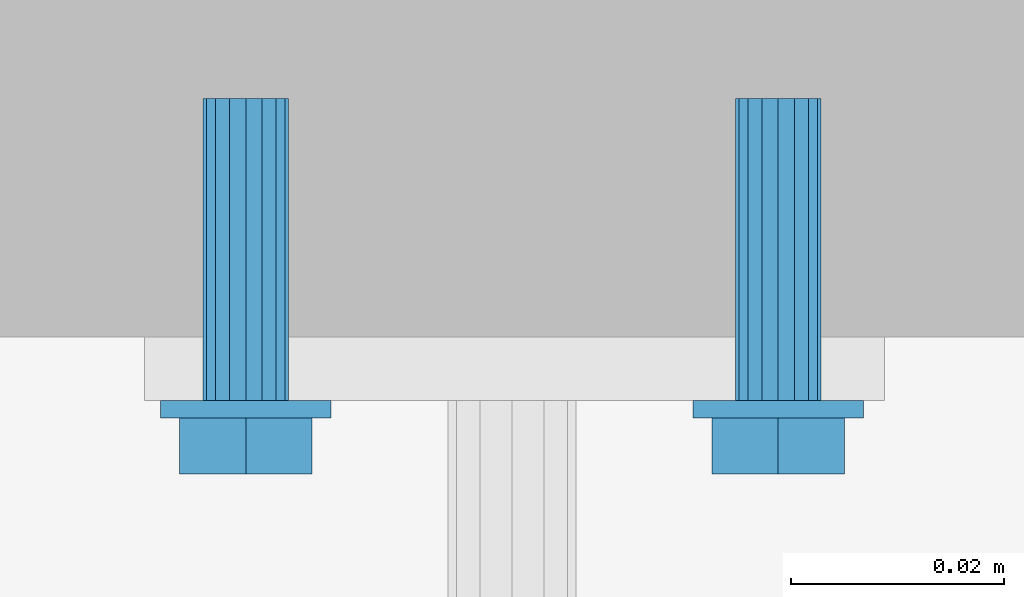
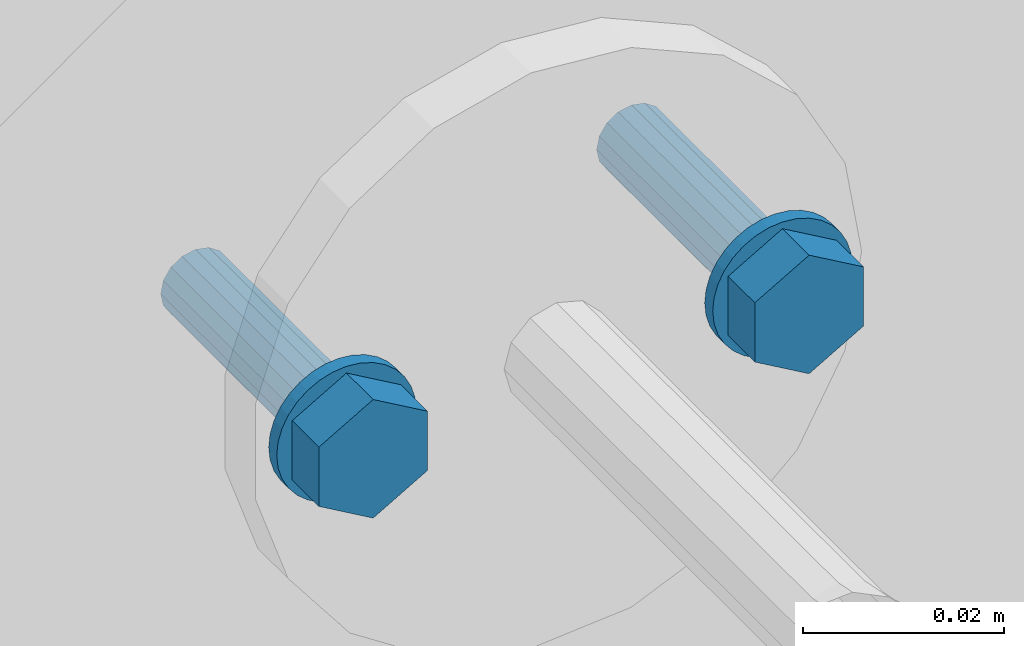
# One storey, part 247 of 410: 1 mechanical fastener.
"""IFC2X3 building model written with IfcOpenShell, lengths in millimetres."""

from ifc_helpers import new_model, entity, si_unit, converted_unit, origin_with_axes, place, context, project, spatial, faceted_brep, element, save


model = new_model("IFC2X3")

# Units and contexts
model_context = context("Model", 3, precision=1e-09, world=origin_with_axes())
ifc_project = project(units=[si_unit("LENGTHUNIT", "METRE", prefix="MILLI"), si_unit("AREAUNIT", "SQUARE_METRE"), si_unit("VOLUMEUNIT", "CUBIC_METRE"), converted_unit("PLANEANGLEUNIT", "DEGREE", entity("IfcPlaneAngleMeasure", 0.01745329), si_unit("PLANEANGLEUNIT", "RADIAN"), dimensions=[0, 0, 0, 0, 0, 0, 0])], contexts=[model_context])

# Site, building, storey
site_placement = place(None, origin_with_axes())
site = spatial("IfcSite", under=ifc_project, at=site_placement, Name="mKR Teilneubau & Sanierung BA1 - Ostfildern", CompositionType="ELEMENT")
building_placement = place(site_placement, origin_with_axes())
building = spatial("IfcBuilding", under=site, at=building_placement, Name="Struktur 1", CompositionType="ELEMENT")
storey_placement = place(building_placement, origin_with_axes())
storey = spatial("IfcBuildingStorey", under=building, at=storey_placement, Name="Default Storey", CompositionType="ELEMENT", Elevation=0.0)

# Mechanical fastener
mechanical_fastener_placement = place(None, origin_with_axes())
element("IfcMechanicalFastener", 1, at=mechanical_fastener_placement, inside=storey, ObjectType="-", NominalDiameter=8.0, NominalLength=30.0, context=model_context, shape_type="Brep", body=[
    faceted_brep([(-1873.000783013, 18612.400061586, 4732.599478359), (-1873.000783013, 18614.000061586, 4732.599478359), (-1872.847065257, 18614.000061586, 4731.038755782), (-1872.847065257, 18612.400061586, 4731.038755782), (-1872.391819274, 18614.000061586, 4729.5380109), (-1872.391819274, 18612.400061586, 4729.5380109), (-1871.652539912, 18614.000061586, 4728.154916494), (-1871.652539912, 18612.400061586, 4728.154916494), (-1870.657637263, 18614.000061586, 4726.942624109), (-1870.657637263, 18612.400061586, 4726.942624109), (-1869.445344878, 18614.000061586, 4725.94772146), (-1869.445344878, 18612.400061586, 4725.94772146), (-1868.062250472, 18614.000061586, 4725.208442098), (-1868.062250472, 18612.400061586, 4725.208442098), (-1866.56150559, 18614.000061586, 4724.753196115), (-1866.56150559, 18612.400061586, 4724.753196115), (-1865.000783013, 18614.000061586, 4724.599478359), (-1865.000783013, 18612.400061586, 4724.599478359), (-1863.440060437, 18614.000061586, 4724.753196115), (-1863.440060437, 18612.400061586, 4724.753196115), (-1861.939315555, 18614.000061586, 4725.208442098), (-1861.939315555, 18612.400061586, 4725.208442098), (-1860.556221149, 18614.000061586, 4725.94772146), (-1860.556221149, 18612.400061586, 4725.94772146), (-1859.343928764, 18614.000061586, 4726.942624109), (-1859.343928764, 18612.400061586, 4726.942624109), (-1858.349026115, 18614.000061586, 4728.154916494), (-1858.349026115, 18612.400061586, 4728.154916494), (-1857.609746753, 18614.000061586, 4729.5380109), (-1857.609746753, 18612.400061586, 4729.5380109), (-1857.15450077, 18614.000061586, 4731.038755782), (-1857.15450077, 18612.400061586, 4731.038755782), (-1857.000783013, 18614.000061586, 4732.599478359), (-1857.000783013, 18612.400061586, 4732.599478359), (-1857.15450077, 18614.000061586, 4734.160200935), (-1857.15450077, 18612.400061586, 4734.160200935), (-1857.609746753, 18614.000061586, 4735.660945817), (-1857.609746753, 18612.400061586, 4735.660945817), (-1858.349026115, 18614.000061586, 4737.044040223), (-1858.349026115, 18612.400061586, 4737.044040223), (-1859.343928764, 18614.000061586, 4738.256332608), (-1859.343928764, 18612.400061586, 4738.256332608), (-1860.556221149, 18614.000061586, 4739.251235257), (-1860.556221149, 18612.400061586, 4739.251235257), (-1861.939315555, 18614.000061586, 4739.990514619), (-1861.939315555, 18612.400061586, 4739.990514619), (-1863.440060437, 18614.000061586, 4740.445760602), (-1863.440060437, 18612.400061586, 4740.445760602), (-1865.000783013, 18614.000061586, 4740.599478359), (-1865.000783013, 18612.400061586, 4740.599478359), (-1866.56150559, 18614.000061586, 4740.445760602), (-1866.56150559, 18612.400061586, 4740.445760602), (-1868.062250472, 18614.000061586, 4739.990514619), (-1868.062250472, 18612.400061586, 4739.990514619), (-1869.445344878, 18614.000061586, 4739.251235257), (-1869.445344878, 18612.400061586, 4739.251235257), (-1870.657637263, 18614.000061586, 4738.256332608), (-1870.657637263, 18612.400061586, 4738.256332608), (-1871.652539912, 18614.000061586, 4737.044040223), (-1871.652539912, 18612.400061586, 4737.044040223), (-1872.391819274, 18614.000061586, 4735.660945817), (-1872.391819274, 18612.400061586, 4735.660945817), (-1872.847065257, 18614.000061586, 4734.160200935), (-1872.847065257, 18612.400061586, 4734.160200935)], [[[0, 1, 2, 3]], [[3, 2, 4, 5]], [[5, 4, 6, 7]], [[7, 6, 8, 9]], [[9, 8, 10, 11]], [[11, 10, 12, 13]], [[13, 12, 14, 15]], [[15, 14, 16, 17]], [[17, 16, 18, 19]], [[19, 18, 20, 21]], [[21, 20, 22, 23]], [[23, 22, 24, 25]], [[25, 24, 26, 27]], [[27, 26, 28, 29]], [[29, 28, 30, 31]], [[31, 30, 32, 33]], [[33, 32, 34, 35]], [[35, 34, 36, 37]], [[37, 36, 38, 39]], [[39, 38, 40, 41]], [[41, 40, 42, 43]], [[43, 42, 44, 45]], [[45, 44, 46, 47]], [[47, 46, 48, 49]], [[49, 48, 50, 51]], [[51, 50, 52, 53]], [[53, 52, 54, 55]], [[55, 54, 56, 57]], [[57, 56, 58, 59]], [[59, 58, 60, 61]], [[61, 60, 62, 63]], [[63, 62, 1, 0]], [[0, 3, 5, 7, 9, 11, 13, 15, 17, 19, 21, 23, 25, 27, 29, 31, 33, 35, 37, 39, 41, 43, 45, 47, 49, 51, 53, 55, 57, 59, 61, 63]], [[1, 62, 60, 58, 56, 54, 52, 50, 48, 46, 44, 42, 40, 38, 36, 34, 32, 30, 28, 26, 24, 22, 20, 18, 16, 14, 12, 10, 8, 6, 4, 2]]]),
    faceted_brep([(-1923.000783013, 18612.400061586, 4732.599478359), (-1923.000783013, 18614.000061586, 4732.599478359), (-1922.847065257, 18614.000061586, 4731.038755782), (-1922.847065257, 18612.400061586, 4731.038755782), (-1922.391819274, 18614.000061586, 4729.5380109), (-1922.391819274, 18612.400061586, 4729.5380109), (-1921.652539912, 18614.000061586, 4728.154916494), (-1921.652539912, 18612.400061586, 4728.154916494), (-1920.657637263, 18614.000061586, 4726.942624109), (-1920.657637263, 18612.400061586, 4726.942624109), (-1919.445344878, 18614.000061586, 4725.94772146), (-1919.445344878, 18612.400061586, 4725.94772146), (-1918.062250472, 18614.000061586, 4725.208442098), (-1918.062250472, 18612.400061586, 4725.208442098), (-1916.56150559, 18614.000061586, 4724.753196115), (-1916.56150559, 18612.400061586, 4724.753196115), (-1915.000783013, 18614.000061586, 4724.599478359), (-1915.000783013, 18612.400061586, 4724.599478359), (-1913.440060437, 18614.000061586, 4724.753196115), (-1913.440060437, 18612.400061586, 4724.753196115), (-1911.939315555, 18614.000061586, 4725.208442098), (-1911.939315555, 18612.400061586, 4725.208442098), (-1910.556221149, 18614.000061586, 4725.94772146), (-1910.556221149, 18612.400061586, 4725.94772146), (-1909.343928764, 18614.000061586, 4726.942624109), (-1909.343928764, 18612.400061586, 4726.942624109), (-1908.349026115, 18614.000061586, 4728.154916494), (-1908.349026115, 18612.400061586, 4728.154916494), (-1907.609746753, 18614.000061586, 4729.5380109), (-1907.609746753, 18612.400061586, 4729.5380109), (-1907.15450077, 18614.000061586, 4731.038755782), (-1907.15450077, 18612.400061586, 4731.038755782), (-1907.000783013, 18614.000061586, 4732.599478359), (-1907.000783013, 18612.400061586, 4732.599478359), (-1907.15450077, 18614.000061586, 4734.160200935), (-1907.15450077, 18612.400061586, 4734.160200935), (-1907.609746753, 18614.000061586, 4735.660945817), (-1907.609746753, 18612.400061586, 4735.660945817), (-1908.349026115, 18614.000061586, 4737.044040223), (-1908.349026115, 18612.400061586, 4737.044040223), (-1909.343928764, 18614.000061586, 4738.256332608), (-1909.343928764, 18612.400061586, 4738.256332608), (-1910.556221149, 18614.000061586, 4739.251235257), (-1910.556221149, 18612.400061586, 4739.251235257), (-1911.939315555, 18614.000061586, 4739.990514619), (-1911.939315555, 18612.400061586, 4739.990514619), (-1913.440060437, 18614.000061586, 4740.445760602), (-1913.440060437, 18612.400061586, 4740.445760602), (-1915.000783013, 18614.000061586, 4740.599478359), (-1915.000783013, 18612.400061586, 4740.599478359), (-1916.56150559, 18614.000061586, 4740.445760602), (-1916.56150559, 18612.400061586, 4740.445760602), (-1918.062250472, 18614.000061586, 4739.990514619), (-1918.062250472, 18612.400061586, 4739.990514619), (-1919.445344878, 18614.000061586, 4739.251235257), (-1919.445344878, 18612.400061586, 4739.251235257), (-1920.657637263, 18614.000061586, 4738.256332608), (-1920.657637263, 18612.400061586, 4738.256332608), (-1921.652539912, 18614.000061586, 4737.044040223), (-1921.652539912, 18612.400061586, 4737.044040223), (-1922.391819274, 18614.000061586, 4735.660945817), (-1922.391819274, 18612.400061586, 4735.660945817), (-1922.847065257, 18614.000061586, 4734.160200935), (-1922.847065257, 18612.400061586, 4734.160200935)], [[[0, 1, 2, 3]], [[3, 2, 4, 5]], [[5, 4, 6, 7]], [[7, 6, 8, 9]], [[9, 8, 10, 11]], [[11, 10, 12, 13]], [[13, 12, 14, 15]], [[15, 14, 16, 17]], [[17, 16, 18, 19]], [[19, 18, 20, 21]], [[21, 20, 22, 23]], [[23, 22, 24, 25]], [[25, 24, 26, 27]], [[27, 26, 28, 29]], [[29, 28, 30, 31]], [[31, 30, 32, 33]], [[33, 32, 34, 35]], [[35, 34, 36, 37]], [[37, 36, 38, 39]], [[39, 38, 40, 41]], [[41, 40, 42, 43]], [[43, 42, 44, 45]], [[45, 44, 46, 47]], [[47, 46, 48, 49]], [[49, 48, 50, 51]], [[51, 50, 52, 53]], [[53, 52, 54, 55]], [[55, 54, 56, 57]], [[57, 56, 58, 59]], [[59, 58, 60, 61]], [[61, 60, 62, 63]], [[63, 62, 1, 0]], [[0, 3, 5, 7, 9, 11, 13, 15, 17, 19, 21, 23, 25, 27, 29, 31, 33, 35, 37, 39, 41, 43, 45, 47, 49, 51, 53, 55, 57, 59, 61, 63]], [[1, 62, 60, 58, 56, 54, 52, 50, 48, 46, 44, 42, 40, 38, 36, 34, 32, 30, 28, 26, 24, 22, 20, 18, 16, 14, 12, 10, 8, 6, 4, 2]]]),
    faceted_brep([(-1858.77406036, 18612.400061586, 4729.004478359), (-1858.77406036, 18607.100061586, 4729.004478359), (-1865.000783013, 18607.100061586, 4725.409478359), (-1865.000783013, 18612.400061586, 4725.409478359), (-1871.227505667, 18607.100061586, 4729.004478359), (-1871.227505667, 18612.400061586, 4729.004478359), (-1871.227505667, 18607.100061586, 4736.194478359), (-1871.227505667, 18612.400061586, 4736.194478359), (-1865.000783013, 18607.100061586, 4739.789478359), (-1865.000783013, 18612.400061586, 4739.789478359), (-1858.77406036, 18607.100061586, 4736.194478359), (-1858.77406036, 18612.400061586, 4736.194478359)], [[[0, 1, 2, 3]], [[3, 2, 4, 5]], [[5, 4, 6, 7]], [[7, 6, 8, 9]], [[9, 8, 10, 11]], [[11, 10, 1, 0]], [[4, 2, 1, 10, 8, 6]], [[0, 3, 5, 7, 9, 11]]]),
    faceted_brep([(-1908.77406036, 18612.400061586, 4729.004478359), (-1908.77406036, 18607.100061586, 4729.004478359), (-1915.000783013, 18607.100061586, 4725.409478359), (-1915.000783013, 18612.400061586, 4725.409478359), (-1921.227505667, 18607.100061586, 4729.004478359), (-1921.227505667, 18612.400061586, 4729.004478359), (-1921.227505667, 18607.100061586, 4736.194478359), (-1921.227505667, 18612.400061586, 4736.194478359), (-1915.000783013, 18607.100061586, 4739.789478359), (-1915.000783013, 18612.400061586, 4739.789478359), (-1908.77406036, 18607.100061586, 4736.194478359), (-1908.77406036, 18612.400061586, 4736.194478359)], [[[0, 1, 2, 3]], [[3, 2, 4, 5]], [[5, 4, 6, 7]], [[7, 6, 8, 9]], [[9, 8, 10, 11]], [[11, 10, 1, 0]], [[4, 2, 1, 10, 8, 6]], [[0, 3, 5, 7, 9, 11]]]),
    faceted_brep([(-1869.000783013, 18614.000061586, 4732.599478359), (-1869.000783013, 18624.000061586, 4732.599478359), (-1868.696301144, 18624.000061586, 4731.068744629), (-1868.696301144, 18614.000061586, 4731.068744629), (-1867.829210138, 18624.000061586, 4729.771051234), (-1867.829210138, 18614.000061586, 4729.771051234), (-1866.531516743, 18624.000061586, 4728.903960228), (-1866.531516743, 18614.000061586, 4728.903960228), (-1865.000783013, 18624.000061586, 4728.599478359), (-1865.000783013, 18614.000061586, 4728.599478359), (-1863.470049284, 18624.000061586, 4728.903960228), (-1863.470049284, 18614.000061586, 4728.903960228), (-1862.172355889, 18624.000061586, 4729.771051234), (-1862.172355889, 18614.000061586, 4729.771051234), (-1861.305264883, 18624.000061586, 4731.068744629), (-1861.305264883, 18614.000061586, 4731.068744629), (-1861.000783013, 18624.000061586, 4732.599478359), (-1861.000783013, 18614.000061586, 4732.599478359), (-1861.305264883, 18624.000061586, 4734.130212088), (-1861.305264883, 18614.000061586, 4734.130212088), (-1862.172355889, 18624.000061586, 4735.427905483), (-1862.172355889, 18614.000061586, 4735.427905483), (-1863.470049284, 18624.000061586, 4736.294996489), (-1863.470049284, 18614.000061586, 4736.294996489), (-1865.000783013, 18624.000061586, 4736.599478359), (-1865.000783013, 18614.000061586, 4736.599478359), (-1866.531516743, 18624.000061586, 4736.294996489), (-1866.531516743, 18614.000061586, 4736.294996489), (-1867.829210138, 18624.000061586, 4735.427905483), (-1867.829210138, 18614.000061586, 4735.427905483), (-1868.696301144, 18624.000061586, 4734.130212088), (-1868.696301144, 18614.000061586, 4734.130212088)], [[[0, 1, 2, 3]], [[3, 2, 4, 5]], [[5, 4, 6, 7]], [[7, 6, 8, 9]], [[9, 8, 10, 11]], [[11, 10, 12, 13]], [[13, 12, 14, 15]], [[15, 14, 16, 17]], [[17, 16, 18, 19]], [[19, 18, 20, 21]], [[21, 20, 22, 23]], [[23, 22, 24, 25]], [[25, 24, 26, 27]], [[27, 26, 28, 29]], [[29, 28, 30, 31]], [[31, 30, 1, 0]], [[0, 3, 5, 7, 9, 11, 13, 15, 17, 19, 21, 23, 25, 27, 29, 31]], [[1, 30, 28, 26, 24, 22, 20, 18, 16, 14, 12, 10, 8, 6, 4, 2]]]),
    faceted_brep([(-1919.000783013, 18614.000061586, 4732.599478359), (-1919.000783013, 18624.000061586, 4732.599478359), (-1918.696301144, 18624.000061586, 4731.068744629), (-1918.696301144, 18614.000061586, 4731.068744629), (-1917.829210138, 18624.000061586, 4729.771051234), (-1917.829210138, 18614.000061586, 4729.771051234), (-1916.531516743, 18624.000061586, 4728.903960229), (-1916.531516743, 18614.000061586, 4728.903960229), (-1915.000783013, 18624.000061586, 4728.599478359), (-1915.000783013, 18614.000061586, 4728.599478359), (-1913.470049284, 18624.000061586, 4728.903960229), (-1913.470049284, 18614.000061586, 4728.903960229), (-1912.172355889, 18624.000061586, 4729.771051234), (-1912.172355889, 18614.000061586, 4729.771051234), (-1911.305264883, 18624.000061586, 4731.068744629), (-1911.305264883, 18614.000061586, 4731.068744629), (-1911.000783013, 18624.000061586, 4732.599478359), (-1911.000783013, 18614.000061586, 4732.599478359), (-1911.305264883, 18624.000061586, 4734.130212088), (-1911.305264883, 18614.000061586, 4734.130212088), (-1912.172355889, 18624.000061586, 4735.427905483), (-1912.172355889, 18614.000061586, 4735.427905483), (-1913.470049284, 18624.000061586, 4736.294996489), (-1913.470049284, 18614.000061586, 4736.294996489), (-1915.000783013, 18624.000061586, 4736.599478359), (-1915.000783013, 18614.000061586, 4736.599478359), (-1916.531516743, 18624.000061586, 4736.294996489), (-1916.531516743, 18614.000061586, 4736.294996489), (-1917.829210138, 18624.000061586, 4735.427905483), (-1917.829210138, 18614.000061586, 4735.427905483), (-1918.696301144, 18624.000061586, 4734.130212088), (-1918.696301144, 18614.000061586, 4734.130212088)], [[[0, 1, 2, 3]], [[3, 2, 4, 5]], [[5, 4, 6, 7]], [[7, 6, 8, 9]], [[9, 8, 10, 11]], [[11, 10, 12, 13]], [[13, 12, 14, 15]], [[15, 14, 16, 17]], [[17, 16, 18, 19]], [[19, 18, 20, 21]], [[21, 20, 22, 23]], [[23, 22, 24, 25]], [[25, 24, 26, 27]], [[27, 26, 28, 29]], [[29, 28, 30, 31]], [[31, 30, 1, 0]], [[0, 3, 5, 7, 9, 11, 13, 15, 17, 19, 21, 23, 25, 27, 29, 31]], [[1, 30, 28, 26, 24, 22, 20, 18, 16, 14, 12, 10, 8, 6, 4, 2]]]),
    faceted_brep([(-1869.000783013, 18624.000061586, 4732.599478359), (-1869.000783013, 18642.400061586, 4732.599478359), (-1868.696301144, 18642.400061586, 4731.068744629), (-1868.696301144, 18624.000061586, 4731.068744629), (-1867.829210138, 18642.400061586, 4729.771051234), (-1867.829210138, 18624.000061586, 4729.771051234), (-1866.531516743, 18642.400061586, 4728.903960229), (-1866.531516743, 18624.000061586, 4728.903960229), (-1865.000783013, 18642.400061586, 4728.599478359), (-1865.000783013, 18624.000061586, 4728.599478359), (-1863.470049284, 18642.400061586, 4728.903960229), (-1863.470049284, 18624.000061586, 4728.903960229), (-1862.172355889, 18642.400061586, 4729.771051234), (-1862.172355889, 18624.000061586, 4729.771051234), (-1861.305264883, 18642.400061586, 4731.068744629), (-1861.305264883, 18624.000061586, 4731.068744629), (-1861.000783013, 18642.400061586, 4732.599478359), (-1861.000783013, 18624.000061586, 4732.599478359), (-1861.305264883, 18642.400061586, 4734.130212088), (-1861.305264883, 18624.000061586, 4734.130212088), (-1862.172355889, 18642.400061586, 4735.427905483), (-1862.172355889, 18624.000061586, 4735.427905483), (-1863.470049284, 18642.400061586, 4736.294996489), (-1863.470049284, 18624.000061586, 4736.294996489), (-1865.000783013, 18642.400061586, 4736.599478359), (-1865.000783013, 18624.000061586, 4736.599478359), (-1866.531516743, 18642.400061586, 4736.294996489), (-1866.531516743, 18624.000061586, 4736.294996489), (-1867.829210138, 18642.400061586, 4735.427905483), (-1867.829210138, 18624.000061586, 4735.427905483), (-1868.696301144, 18642.400061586, 4734.130212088), (-1868.696301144, 18624.000061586, 4734.130212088)], [[[0, 1, 2, 3]], [[3, 2, 4, 5]], [[5, 4, 6, 7]], [[7, 6, 8, 9]], [[9, 8, 10, 11]], [[11, 10, 12, 13]], [[13, 12, 14, 15]], [[15, 14, 16, 17]], [[17, 16, 18, 19]], [[19, 18, 20, 21]], [[21, 20, 22, 23]], [[23, 22, 24, 25]], [[25, 24, 26, 27]], [[27, 26, 28, 29]], [[29, 28, 30, 31]], [[31, 30, 1, 0]], [[0, 3, 5, 7, 9, 11, 13, 15, 17, 19, 21, 23, 25, 27, 29, 31]], [[1, 30, 28, 26, 24, 22, 20, 18, 16, 14, 12, 10, 8, 6, 4, 2]]]),
    faceted_brep([(-1919.000783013, 18624.000061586, 4732.599478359), (-1919.000783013, 18642.400061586, 4732.599478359), (-1918.696301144, 18642.400061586, 4731.068744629), (-1918.696301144, 18624.000061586, 4731.068744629), (-1917.829210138, 18642.400061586, 4729.771051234), (-1917.829210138, 18624.000061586, 4729.771051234), (-1916.531516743, 18642.400061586, 4728.903960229), (-1916.531516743, 18624.000061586, 4728.903960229), (-1915.000783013, 18642.400061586, 4728.599478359), (-1915.000783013, 18624.000061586, 4728.599478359), (-1913.470049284, 18642.400061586, 4728.903960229), (-1913.470049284, 18624.000061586, 4728.903960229), (-1912.172355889, 18642.400061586, 4729.771051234), (-1912.172355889, 18624.000061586, 4729.771051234), (-1911.305264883, 18642.400061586, 4731.068744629), (-1911.305264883, 18624.000061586, 4731.068744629), (-1911.000783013, 18642.400061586, 4732.599478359), (-1911.000783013, 18624.000061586, 4732.599478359), (-1911.305264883, 18642.400061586, 4734.130212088), (-1911.305264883, 18624.000061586, 4734.130212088), (-1912.172355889, 18642.400061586, 4735.427905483), (-1912.172355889, 18624.000061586, 4735.427905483), (-1913.470049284, 18642.400061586, 4736.294996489), (-1913.470049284, 18624.000061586, 4736.294996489), (-1915.000783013, 18642.400061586, 4736.599478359), (-1915.000783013, 18624.000061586, 4736.599478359), (-1916.531516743, 18642.400061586, 4736.294996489), (-1916.531516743, 18624.000061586, 4736.294996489), (-1917.829210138, 18642.400061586, 4735.427905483), (-1917.829210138, 18624.000061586, 4735.427905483), (-1918.696301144, 18642.400061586, 4734.130212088), (-1918.696301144, 18624.000061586, 4734.130212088)], [[[0, 1, 2, 3]], [[3, 2, 4, 5]], [[5, 4, 6, 7]], [[7, 6, 8, 9]], [[9, 8, 10, 11]], [[11, 10, 12, 13]], [[13, 12, 14, 15]], [[15, 14, 16, 17]], [[17, 16, 18, 19]], [[19, 18, 20, 21]], [[21, 20, 22, 23]], [[23, 22, 24, 25]], [[25, 24, 26, 27]], [[27, 26, 28, 29]], [[29, 28, 30, 31]], [[31, 30, 1, 0]], [[0, 3, 5, 7, 9, 11, 13, 15, 17, 19, 21, 23, 25, 27, 29, 31]], [[1, 30, 28, 26, 24, 22, 20, 18, 16, 14, 12, 10, 8, 6, 4, 2]]]),
])

save(model, "model.ifc")
